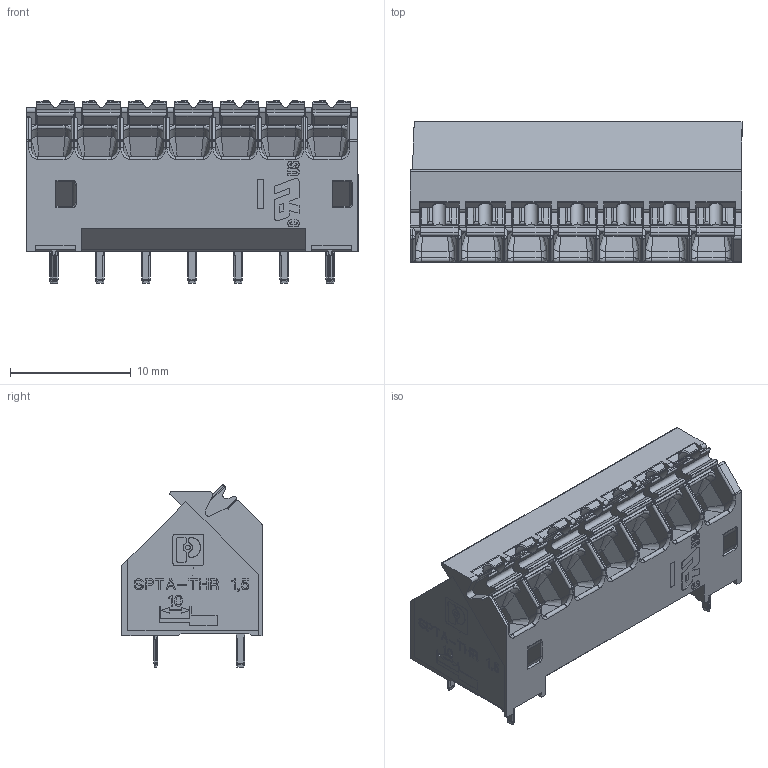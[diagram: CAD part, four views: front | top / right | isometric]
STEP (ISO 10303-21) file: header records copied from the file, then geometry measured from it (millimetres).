
FILE_DESCRIPTION(('Creo Elements/Direct Modeling STEP Export'),'2;1');
FILE_NAME('C:/temp/JobSpoolerServerData/JobServer Files/fa607c0d-6c81-4171-875c-bfd0d6de0639/work/output/model.stp','2020-02-15T 0:16:37',(''),(''),'Creo Elements/Direct Modeling STEP processor for AP214 (Solid Model)','Creo Elements/Direct Modeling 20.1A 29-Sep-2018 (C) Parametric Technology GmbH','');
FILE_SCHEMA(('AUTOMOTIVE_DESIGN { 1 0 10303 214 1 1 1 1 }'));
Products named in the file (2): SPTA-THR_1_5-7-3_81
Assembly tree (1 placements, depth 2):
  SPTA-THR_1_5-7-3_81
    SPTA-THR_1_5-7-3_81
Bounding box: 27.46 x 11.6 x 15.07 mm (x, y, z)
Volume: 2605 mm3; surface area: 2484.2 mm2
Topology: 1 solids, 1 shells, 1571 faces, 4176 edges, 2601 vertices
Faces by surface type: plane 863, cylinder 448, bspline 160, cone 40, torus 21, sphere 20, extrusion 19
Entity records: 77834 total; most frequent: CARTESIAN_POINT 28157, ORIENTED_EDGE 8256, DIRECTION 7103, EDGE_CURVE 4128, VECTOR 2899, LINE 2880, VERTEX_POINT 2601, AXIS2_PLACEMENT_3D 2102
